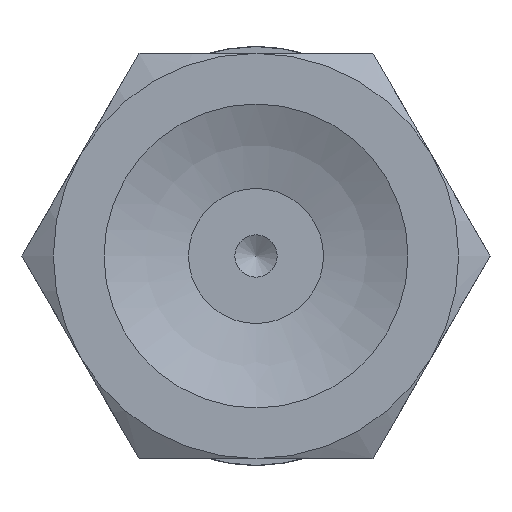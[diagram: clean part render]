
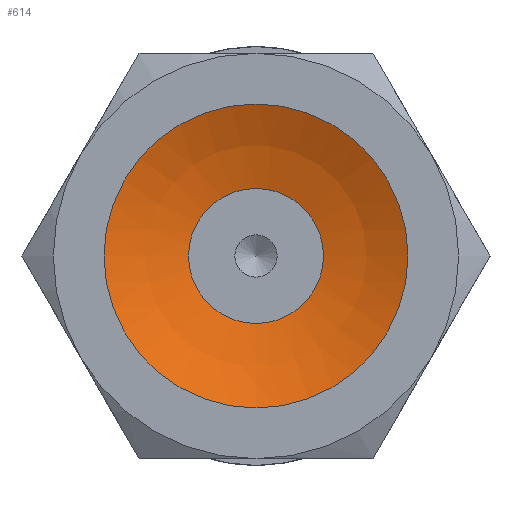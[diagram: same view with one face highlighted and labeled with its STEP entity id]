
A CAD part, front view. The second image highlights one B-rep face of the part: STEP entity #614.
In plain terms, the highlighted spherical face has radius 10.203 mm.
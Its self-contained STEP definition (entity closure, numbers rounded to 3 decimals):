
#614=ADVANCED_FACE('',(#926,#927),#928,.F.);
#926=FACE_OUTER_BOUND('',#1347,.T.);
#927=FACE_OUTER_BOUND('',#1348,.T.);
#928=SPHERICAL_SURFACE('',#1349,10.203);
#1347=EDGE_LOOP('',(#2394));
#1348=EDGE_LOOP('',(#2395));
#1349=AXIS2_PLACEMENT_3D('',#2396,#2397,#2398);
#2394=ORIENTED_EDGE('',*,*,#2971,.T.);
#2395=ORIENTED_EDGE('',*,*,#2972,.F.);
#2396=CARTESIAN_POINT('',(0.,-9.157,0.));
#2397=DIRECTION('',(0.0,-1.0,0.));
#2398=DIRECTION('',(1.0,0.0,0.0));
#2971=EDGE_CURVE('',#3369,#3369,#3370,.T.);
#2972=EDGE_CURVE('',#3371,#3371,#3372,.T.);
#3369=VERTEX_POINT('',#4409);
#3370=CIRCLE('',#4410,4.5);
#3371=VERTEX_POINT('',#4411);
#3372=CIRCLE('',#4412,2.);
#4409=CARTESIAN_POINT('',(0.0,0.,-4.5));
#4410=AXIS2_PLACEMENT_3D('',#5168,#5169,#5170);
#4411=CARTESIAN_POINT('',(0.0,0.848,-2.));
#4412=AXIS2_PLACEMENT_3D('',#5171,#5172,#5173);
#5168=CARTESIAN_POINT('',(0.0,0.,0.0));
#5169=DIRECTION('',(0.0,-1.0,0.));
#5170=DIRECTION('',(0.0,0.,-1.0));
#5171=CARTESIAN_POINT('',(0.0,0.848,0.0));
#5172=DIRECTION('',(0.0,-1.0,0.));
#5173=DIRECTION('',(0.0,0.,-1.0));
